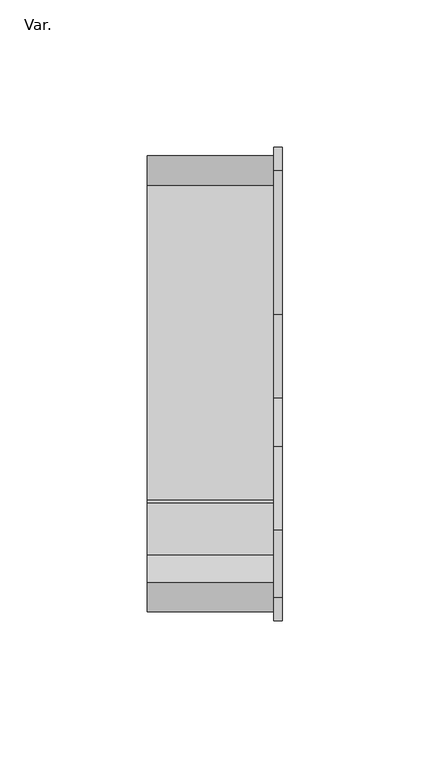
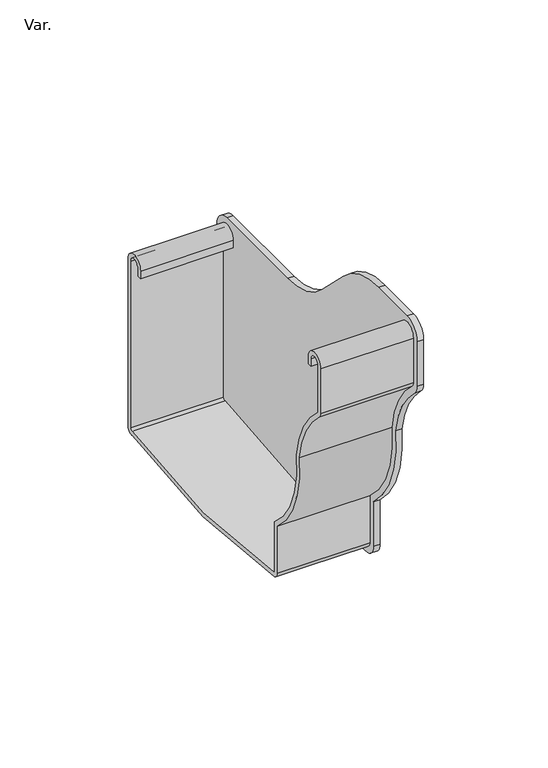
"""IFC4 building model written with IfcOpenShell, lengths in millimetres: pipe fitting geometry, PavcoWavin_UnionesDeTuberia_Canal Amazona_Tapa Derecha Interna : Var.."""

from ifc_helpers import new_model, si_unit, point, frame, frame_2d, origin, place, context, project, spatial, polyline, circle_curve, trimmed, segment, composite_curve, outline, extrude, source, transform, mapped, element, save
from ifc_brep_helpers import plane_surface, cylinder_surface, revolved_surface, advanced_brep


def var_11f69991(model_context):
    return source(origin(), model_context, "Body", "SolidModel", [
        advanced_brep(
        [(0.0, -94.9989921, 111.0486649), (0.0, -94.9989921, 132.9978746), (0.0, -84.9989921, 132.9978746), (0.0, -84.9989921, 129.3508337), (0.0, -86.9989995, 129.3508337), (0.0, -86.9989995, 133.0025909), (0.0, -92.999007, 133.0025909), (0.0, -92.999007, 111.0421133), (0.0, -92.6365254, 110.2778528), (0.0, -75.6670061, 78.8566465), (0.0, -58.0059262, 35.5015053), (0.0, -58.0059262, 11.3722929), (0.0, -57.008064, 10.3744306), (0.0, 56.5270093, 10.4373059), (0.0, 57.9904165, 11.3142316), (0.0, 57.9960308, 92.9983135), (0.0, 51.9960234, 92.9985197), (0.0, 51.9960234, 89.3467624), (0.0, 49.996016, 89.3467624), (0.0, 49.996016, 92.9938034), (0.0, 59.996016, 92.9938034), (0.0, 59.996016, 11.3079437), (0.0, 56.378077, 8.3722749), (0.0, -57.2572572, 8.3722749), (0.0, -60.0039671, 11.3633151), (0.0, -60.0039671, 34.5505696), (0.0, -77.6828618, 78.8439654), (0.0, -93.940635, 108.7617406), (43.0, -94.9989921, 111.0486649), (43.0, -93.940635, 108.7617406), (43.0, -77.6828618, 78.8439654), (43.0, -60.0039671, 34.5505696), (43.0, -60.0039671, 11.3633151), (43.0, -57.2572572, 8.3722749), (43.0, 56.378077, 8.3722749), (43.0, 59.996016, 11.3079437), (43.0, 59.996016, 92.9938034), (43.0, 49.996016, 92.9938034), (43.0, 49.996016, 89.3467624), (43.0, 51.9960234, 89.3467624), (43.0, 51.9960234, 92.9985197), (43.0, 57.9960308, 92.9983135), (43.0, 57.9904165, 11.3142316), (43.0, 56.5270093, 10.4373059), (43.0, -56.8822231, 10.3367976), (43.0, -58.0059262, 11.3722929), (43.0, -58.0059262, 35.5015053), (43.0, -75.6670061, 78.8566465), (43.0, -92.6365254, 110.2778528), (43.0, -92.999007, 111.0421133), (43.0, -92.999007, 133.0025909), (43.0, -86.9989995, 133.0025909), (43.0, -86.9989995, 129.3508337), (43.0, -84.9989921, 129.3508337), (43.0, -84.9989921, 132.9978746), (43.0, -94.9989921, 132.9978746)],
        [
            (0, 1),
            (1, 2, circle_curve(frame((0.0, -89.9989921, 132.9978746), z_axis=(-1.0, 0.0, 0.0), x_axis=(0.0, 1.0, 0.0)), 5.0)),
            (2, 3),
            (3, 4),
            (4, 5),
            (5, 6, circle_curve(frame((0.0, -89.9990033, 133.0025909), z_axis=(1.0, 0.0, 0.0), x_axis=(0.0, 1.0, 0.0)), 3.0000037)),
            (6, 7),
            (7, 8, circle_curve(frame((0.0, -92.0120781, 111.0421133), z_axis=(1.0, 0.0, 0.0), x_axis=(0.0, 1.0, 0.0)), 0.9869289)),
            (8, 9, circle_curve(frame((0.0, -125.2449385, 72.3742318), z_axis=(-1.0, 0.0, 0.0), x_axis=(0.0, 1.0, 0.0)), 49.9999308)),
            (9, 10, circle_curve(frame((0.0, -28.0269983, 72.9884376), z_axis=(1.0, 0.0, 0.0), x_axis=(0.0, 1.0, 0.0)), 48.0000647)),
            (10, 11),
            (11, 12, circle_curve(frame((0.0, -57.008064, 11.3722929), z_axis=(1.0, 0.0, 0.0), x_axis=(0.0, 1.0, 0.0)), 0.9978622)),
            (12, 13, circle_curve(frame((0.0, -0.4395901, 305.9974632), z_axis=(1.0, 0.0, 0.0), x_axis=(0.0, 1.0, 0.0)), 301.0)),
            (13, 14, circle_curve(frame((0.0, 56.9959294, 11.3143), z_axis=(1.0, 0.0, 0.0), x_axis=(0.0, 1.0, 0.0)), 0.9944871)),
            (14, 15),
            (15, 16, circle_curve(frame((0.0, 54.9960271, 92.9985197), z_axis=(1.0, 0.0, 0.0), x_axis=(0.0, 1.0, 0.0)), 3.0000037)),
            (16, 17),
            (17, 18),
            (18, 19),
            (19, 20, circle_curve(frame((0.0, 54.996016, 92.9938034), z_axis=(-1.0, 0.0, 0.0), x_axis=(0.0, 1.0, 0.0)), 5.0)),
            (20, 21),
            (21, 22, circle_curve(frame((0.0, 56.996016, 11.3079437), z_axis=(-1.0, 0.0, 0.0), x_axis=(0.0, 1.0, 0.0)), 3.0)),
            (22, 23, circle_curve(frame((0.0, -0.4395901, 305.9974632), z_axis=(-1.0, 0.0, 0.0), x_axis=(0.0, 1.0, 0.0)), 303.0)),
            (23, 24, circle_curve(frame((0.0, -57.0020598, 11.3633151), z_axis=(-1.0, 0.0, 0.0), x_axis=(0.0, 1.0, 0.0)), 3.0019073)),
            (24, 25),
            (25, 26, circle_curve(frame((0.0, -28.0269195, 72.9884211), z_axis=(-1.0, 0.0, 0.0), x_axis=(0.0, 1.0, 0.0)), 50.0)),
            (26, 27, circle_curve(frame((0.0, -124.4825808, 72.7885355), z_axis=(1.0, 0.0, 0.0), x_axis=(0.0, 1.0, 0.0)), 47.1898499)),
            (27, 0, circle_curve(frame((0.0, -91.9989921, 111.0486649), z_axis=(-1.0, 0.0, 0.0), x_axis=(0.0, 1.0, 0.0)), 3.0)),
            (28, 29, circle_curve(frame((43.0, -91.9989921, 111.0486649), z_axis=(1.0, 0.0, 0.0), x_axis=(0.0, 1.0, 0.0)), 3.0)),
            (29, 30, circle_curve(frame((43.0, -124.4825808, 72.7885355), z_axis=(-1.0, 0.0, 0.0), x_axis=(0.0, 1.0, 0.0)), 47.1898499)),
            (30, 31, circle_curve(frame((43.0, -28.0269195, 72.9884211), z_axis=(1.0, 0.0, 0.0), x_axis=(0.0, 1.0, 0.0)), 50.0)),
            (31, 32),
            (32, 33, circle_curve(frame((43.0, -57.0020598, 11.3633151), z_axis=(1.0, 0.0, 0.0), x_axis=(0.0, 1.0, 0.0)), 3.0019073)),
            (33, 34, circle_curve(frame((43.0, -0.4395901, 305.9974632), z_axis=(1.0, 0.0, 0.0), x_axis=(0.0, 1.0, 0.0)), 303.0)),
            (34, 35, circle_curve(frame((43.0, 56.996016, 11.3079437), z_axis=(1.0, 0.0, 0.0), x_axis=(0.0, 1.0, 0.0)), 3.0)),
            (35, 36),
            (36, 37, circle_curve(frame((43.0, 54.996016, 92.9938034), z_axis=(1.0, 0.0, 0.0), x_axis=(0.0, 1.0, 0.0)), 5.0)),
            (37, 38),
            (38, 39),
            (39, 40),
            (40, 41, circle_curve(frame((43.0, 54.9960271, 92.9985197), z_axis=(-1.0, 0.0, 0.0), x_axis=(0.0, 1.0, 0.0)), 3.0000037)),
            (41, 42),
            (42, 43, circle_curve(frame((43.0, 56.9959294, 11.3143), z_axis=(-1.0, 0.0, 0.0), x_axis=(0.0, 1.0, 0.0)), 0.9944871)),
            (43, 44, circle_curve(frame((43.0, -0.4395901, 305.9974632), z_axis=(-1.0, 0.0, 0.0), x_axis=(0.0, 1.0, 0.0)), 301.0)),
            (44, 45, circle_curve(frame((43.0, -57.008064, 11.3722929), z_axis=(-1.0, 0.0, 0.0), x_axis=(0.0, 1.0, 0.0)), 0.9978622)),
            (45, 46),
            (46, 47, circle_curve(frame((43.0, -28.0269983, 72.9884376), z_axis=(-1.0, 0.0, 0.0), x_axis=(0.0, 1.0, 0.0)), 48.0000647)),
            (47, 48, circle_curve(frame((43.0, -125.2449385, 72.3742318), z_axis=(1.0, 0.0, 0.0), x_axis=(0.0, 1.0, 0.0)), 49.9999308)),
            (48, 49, circle_curve(frame((43.0, -92.0120781, 111.0421133), z_axis=(-1.0, 0.0, 0.0), x_axis=(0.0, 1.0, 0.0)), 0.9869289)),
            (49, 50),
            (50, 51, circle_curve(frame((43.0, -89.9990033, 133.0025909), z_axis=(-1.0, 0.0, 0.0), x_axis=(0.0, 1.0, 0.0)), 3.0000037)),
            (51, 52),
            (52, 53),
            (53, 54),
            (54, 55, circle_curve(frame((43.0, -89.9989921, 132.9978746), z_axis=(1.0, 0.0, 0.0), x_axis=(0.0, 1.0, 0.0)), 5.0)),
            (55, 28),
            (27, 29),
            (28, 0),
            (26, 30),
            (25, 31),
            (24, 32),
            (23, 33),
            (22, 34),
            (21, 35),
            (20, 36),
            (19, 37),
            (18, 38),
            (17, 39),
            (16, 40),
            (15, 41),
            (14, 42),
            (13, 43),
            (12, 44),
            (11, 45),
            (10, 46),
            (9, 47),
            (8, 48),
            (7, 49),
            (6, 50),
            (5, 51),
            (4, 52),
            (3, 53),
            (2, 54),
            (1, 55),
        ],
        [
            plane_surface(frame((0.0, -94.9989921, 132.9978746), z_axis=(-1.0, 0.0, 0.0), x_axis=(0.0, 0.0, 1.0))),
            plane_surface(frame((43.0, -94.9989921, 132.9978746), z_axis=(1.0, 0.0, 0.0), x_axis=(0.0, 0.0, -1.0))),
            cylinder_surface(frame((43.0, -91.9989921, 111.0486649), z_axis=(-1.0, 0.0, 0.0), x_axis=(0.0, 1.0, 0.0)), 3.0),
            revolved_surface(polyline([(43.0, -77.2927309, 72.7885355), (0.0, -77.2927309, 72.7885355)]), (43.0, -124.4825808, 72.7885355), (1.0, 0.0, 0.0)),
            cylinder_surface(frame((43.0, -28.0269195, 72.9884211), z_axis=(-1.0, 0.0, 0.0), x_axis=(0.0, 1.0, 0.0)), 50.0),
            plane_surface(frame((0.0, -60.0039671, 11.3633151), z_axis=(0.0, -1.0, 0.0), x_axis=(1.0, 0.0, 0.0))),
            cylinder_surface(frame((43.0, -57.0020598, 11.3633151), z_axis=(-1.0, 0.0, 0.0), x_axis=(0.0, 1.0, 0.0)), 3.0019073),
            cylinder_surface(frame((43.0, -0.4395901, 305.9974632), z_axis=(-1.0, 0.0, 0.0), x_axis=(0.0, 1.0, 0.0)), 303.0),
            cylinder_surface(frame((43.0, 56.996016, 11.3079437), z_axis=(-1.0, 0.0, 0.0), x_axis=(0.0, 1.0, 0.0)), 3.0),
            plane_surface(frame((0.0, 59.996016, 92.9938034), z_axis=(0.0, 1.0, 0.0), x_axis=(1.0, 0.0, 0.0))),
            cylinder_surface(frame((43.0, 54.996016, 92.9938034), z_axis=(-1.0, 0.0, 0.0), x_axis=(0.0, 1.0, 0.0)), 5.0),
            plane_surface(frame((0.0, 49.996016, 89.3467624), z_axis=(0.0, -1.0, 0.0), x_axis=(1.0, 0.0, 0.0))),
            plane_surface(frame((0.0, 51.9960234, 89.3467624), z_axis=(0.0, 0.0, -1.0), x_axis=(1.0, 0.0, 0.0))),
            plane_surface(frame((0.0, 51.9960234, 92.9985197), z_axis=(0.0, 1.0, 0.0), x_axis=(1.0, 0.0, 0.0))),
            revolved_surface(polyline([(43.0, 57.9960308, 92.9985197), (0.0, 57.9960308, 92.9985197)]), (43.0, 54.9960271, 92.9985197), (1.0, 0.0, 0.0)),
            plane_surface(frame((0.0, 57.9904165, 11.3142316), z_axis=(0.0, -0.9999999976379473, 6.873212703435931e-05), x_axis=(1.0, 0.0, 0.0))),
            revolved_surface(polyline([(43.0, 57.9904165, 11.3143), (0.0, 57.9904165, 11.3143)]), (43.0, 56.9959294, 11.3143), (1.0, 0.0, 0.0)),
            revolved_surface(polyline([(43.0, 300.5604099, 305.9974632), (0.0, 300.5604099, 305.9974632)]), (43.0, -0.4395901, 305.9974632), (1.0, 0.0, 0.0)),
            revolved_surface(polyline([(43.0, -56.0102018, 11.3722929), (0.0, -56.0102018, 11.3722929)]), (43.0, -57.008064, 11.3722929), (1.0, 0.0, 0.0)),
            plane_surface(frame((0.0, -58.0059262, 35.5015053), z_axis=(0.0, 1.0, 0.0), x_axis=(1.0, 0.0, 0.0))),
            revolved_surface(polyline([(43.0, 19.973066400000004, 72.9884376), (0.0, 19.973066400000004, 72.9884376)]), (43.0, -28.0269983, 72.9884376), (1.0, 0.0, 0.0)),
            cylinder_surface(frame((43.0, -125.2449385, 72.3742318), z_axis=(-1.0, 0.0, 0.0), x_axis=(0.0, 1.0, 0.0)), 49.9999308),
            revolved_surface(polyline([(43.0, -91.0251492, 111.0421133), (0.0, -91.0251492, 111.0421133)]), (43.0, -92.0120781, 111.0421133), (1.0, 0.0, 0.0)),
            plane_surface(frame((0.0, -92.999007, 133.0025909), z_axis=(0.0, 1.0, 0.0), x_axis=(1.0, 0.0, 0.0))),
            revolved_surface(polyline([(43.0, -86.9989996, 133.0025909), (0.0, -86.9989996, 133.0025909)]), (43.0, -89.9990033, 133.0025909), (1.0, 0.0, 0.0)),
            plane_surface(frame((0.0, -86.9989995, 129.3508337), z_axis=(0.0, -1.0, 0.0), x_axis=(1.0, 0.0, 0.0))),
            plane_surface(frame((0.0, -84.9989921, 129.3508337), z_axis=(0.0, 0.0, -1.0), x_axis=(1.0, 0.0, 0.0))),
            plane_surface(frame((0.0, -84.9989921, 132.9978746), z_axis=(0.0, 1.0, 0.0), x_axis=(1.0, 0.0, 0.0))),
            cylinder_surface(frame((43.0, -89.9989921, 132.9978746), z_axis=(-1.0, 0.0, 0.0), x_axis=(0.0, 1.0, 0.0)), 5.0),
            plane_surface(frame((0.0, -94.9989921, 111.0486649), z_axis=(0.0, -1.0, 0.0), x_axis=(1.0, 0.0, 0.0))),
        ],
        [
            (0, [[1, 2, 3, 4, 5, 6, 7, 8, 9, 10, 11, 12, 13, 14, 15, 16, 17, 18, 19, 20, 21, 22, 23, 24, 25, 26, 27, 28]]),
            (1, [[29, 30, 31, 32, 33, 34, 35, 36, 37, 38, 39, 40, 41, 42, 43, 44, 45, 46, 47, 48, 49, 50, 51, 52, 53, 54, 55, 56]]),
            (2, [[-28, 57, -29, 58]]),
            (3, [[-27, 59, -30, -57]]),
            (4, [[-26, 60, -31, -59]]),
            (5, [[-25, 61, -32, -60]]),
            (6, [[-24, 62, -33, -61]]),
            (7, [[-23, 63, -34, -62]]),
            (8, [[-22, 64, -35, -63]]),
            (9, [[-21, 65, -36, -64]]),
            (10, [[-20, 66, -37, -65]]),
            (11, [[-19, 67, -38, -66]]),
            (12, [[-18, 68, -39, -67]]),
            (13, [[-17, 69, -40, -68]]),
            (14, [[-16, 70, -41, -69]]),
            (15, [[-15, 71, -42, -70]]),
            (16, [[-14, 72, -43, -71]]),
            (17, [[-13, 73, -44, -72]]),
            (18, [[-12, 74, -45, -73]]),
            (19, [[-11, 75, -46, -74]]),
            (20, [[-10, 76, -47, -75]]),
            (21, [[-9, 77, -48, -76]]),
            (22, [[-8, 78, -49, -77]]),
            (23, [[-7, 79, -50, -78]]),
            (24, [[-6, 80, -51, -79]]),
            (25, [[-5, 81, -52, -80]]),
            (26, [[-4, 82, -53, -81]]),
            (27, [[-3, 83, -54, -82]]),
            (28, [[-2, 84, -55, -83]]),
            (29, [[-1, -58, -56, -84]]),
        ],
    ),
        extrude(outline(composite_curve([segment(polyline([(62.9960228, 92.9915139), (62.9963953, 11.418886)]), True, "CONTINUOUS"), segment(trimmed(circle_curve(frame_2d((56.9963953, 11.4188586)), 6.0), [point((62.9963953, 11.418886))], [point((56.5752995, 5.4336537))], False, "CARTESIAN"), True, "CONTINUOUS"), segment(trimmed(circle_curve(frame_2d((-0.4443464, 301.8813405)), 301.8815514), [point((56.5752995, 5.4336537))], [point((-58.1352995, 5.5635635))], False, "CARTESIAN"), True, "CONTINUOUS"), segment(trimmed(circle_curve(frame_2d((-56.9850527, 11.4715706)), 6.0189381), [point((-58.1352995, 5.5635635))], [point((-63.0039909, 11.4715706))], False, "CARTESIAN"), True, "CONTINUOUS"), segment(polyline([(-63.0039909, 11.4715706), (-63.0039909, 33.2464397)]), True, "CONTINUOUS"), segment(trimmed(circle_curve(frame_2d((-28.0269263, 73.0660951)), 53.0), [point((-63.0039909, 33.2464397))], [point((-80.7067572, 78.8829169))], False, "CARTESIAN"), True, "CONTINUOUS"), segment(trimmed(circle_curve(frame_2d((-128.8038892, 70.490315)), 48.8238658), [point((-80.7067572, 78.8829169))], [point((-96.0251085, 106.6748615))], True, "CARTESIAN"), True, "CONTINUOUS"), segment(trimmed(circle_curve(frame_2d((-91.9926136, 111.1263389)), 6.0063854), [point((-96.0251085, 106.6748615))], [point((-97.998999, 111.1263389))], False, "CARTESIAN"), True, "CONTINUOUS"), segment(polyline([(-97.998999, 111.1263389), (-97.998999, 132.9955486)]), True, "CONTINUOUS"), segment(trimmed(circle_curve(frame_2d((-89.998999, 132.9955486)), 8.0), [point((-97.998999, 132.9955486))], [point((-89.998999, 140.9955486))], False, "CARTESIAN"), True, "CONTINUOUS"), segment(polyline([(-89.998999, 140.9955486), (-66.990145, 140.9955486)]), True, "CONTINUOUS"), segment(trimmed(circle_curve(frame_2d((-66.990145, 100.9955486)), 40.0), [point((-66.990145, 140.9955486))], [point((-38.7058738, 129.2798199))], False, "CARTESIAN"), True, "CONTINUOUS"), segment(polyline([(-38.7058738, 129.2798199), (-22.1332601, 112.7072061)]), True, "CONTINUOUS"), segment(trimmed(circle_curve(frame_2d((6.1510111, 140.9914774)), 40.0), [point((-22.1332601, 112.7072061))], [point((6.1510111, 100.9914774))], True, "CARTESIAN"), True, "CONTINUOUS"), segment(polyline([(6.1510111, 100.9914774), (54.9960228, 100.9914774)]), True, "CONTINUOUS"), segment(trimmed(circle_curve(frame_2d((54.9960228, 92.9914774)), 8.0), [point((54.9960228, 100.9914774))], [point((62.9960228, 92.9915139))], False, "CARTESIAN"), True, "CONTINUOUS")], self_intersect=False)), frame((43.0, 0.0, 0.0), z_axis=(1.0, 0.0, 0.0), x_axis=(0.0, 1.0, 0.0)), (0.0, 0.0, 1.0), 3.0),
    ])


if __name__ == "__main__":
    model = new_model("IFC4")
    model_context = context("Model", 3, world=origin())
    ifc_project = project(units=[si_unit("LENGTHUNIT", "METRE", prefix="MILLI")], contexts=[model_context])
    site = spatial("IfcSite", under=ifc_project)
    building = spatial("IfcBuilding", under=site)
    placement = place(None, origin())
    var_shape = var_11f69991(model_context)
    element("IfcPipeFitting", 1, ObjectType="PavcoWavin_UnionesDeTuberia_Canal Amazona_Tapa Derecha Interna : Var.", at=placement, inside=building, context=model_context, shape_type="MappedRepresentation", body=[
        mapped(var_shape, transform((0.0, 0.0, 0.0), x_axis=(1.0, 0.0, 0.0), y_axis=(0.0, 1.0, 0.0), z_axis=(0.0, 0.0, 1.0))),
    ])
    save(model, "model.ifc")
